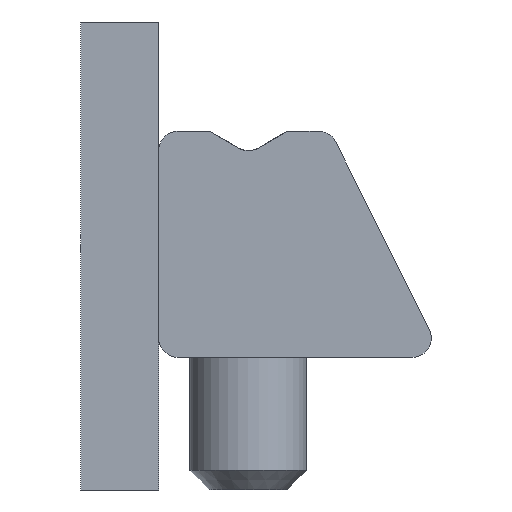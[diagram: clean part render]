
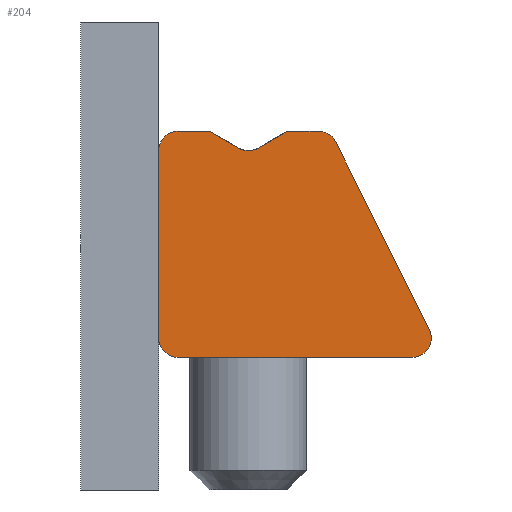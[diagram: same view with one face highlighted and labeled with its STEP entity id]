
A CAD part, left-side view. The second image highlights one B-rep face of the part: STEP entity #204.
In plain terms, the highlighted planar face has unit normal (-1, 0, 0) as drawn and (0, 0, -1) by its records, which use the part's own axes.
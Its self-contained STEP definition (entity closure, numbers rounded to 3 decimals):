
#204=ADVANCED_FACE('',(#368),#369,.T.);
#368=FACE_OUTER_BOUND('',#523,.T.);
#369=PLANE('',#524);
#523=EDGE_LOOP('',(#747,#748,#749,#750,#751,#752,#753,#754,#755,#756,#757,#758));
#524=AXIS2_PLACEMENT_3D('',#759,#760,#761);
#747=ORIENTED_EDGE('',*,*,#1032,.F.);
#748=ORIENTED_EDGE('',*,*,#1033,.F.);
#749=ORIENTED_EDGE('',*,*,#1034,.F.);
#750=ORIENTED_EDGE('',*,*,#1035,.F.);
#751=ORIENTED_EDGE('',*,*,#1036,.F.);
#752=ORIENTED_EDGE('',*,*,#1037,.F.);
#753=ORIENTED_EDGE('',*,*,#1002,.F.);
#754=ORIENTED_EDGE('',*,*,#1038,.F.);
#755=ORIENTED_EDGE('',*,*,#1039,.F.);
#756=ORIENTED_EDGE('',*,*,#1040,.F.);
#757=ORIENTED_EDGE('',*,*,#953,.F.);
#758=ORIENTED_EDGE('',*,*,#1041,.F.);
#759=CARTESIAN_POINT('',(6.491,0.5,0.));
#760=DIRECTION('',(0.0,0.0,-1.0));
#761=DIRECTION('',(1.0,0.0,0.0));
#953=EDGE_CURVE('',#1090,#1092,#1093,.T.);
#1002=EDGE_CURVE('',#1175,#1177,#1178,.T.);
#1032=EDGE_CURVE('',#1219,#1220,#1221,.T.);
#1033=EDGE_CURVE('',#1222,#1219,#1223,.T.);
#1034=EDGE_CURVE('',#1224,#1222,#1225,.T.);
#1035=EDGE_CURVE('',#1226,#1224,#1227,.T.);
#1036=EDGE_CURVE('',#1228,#1226,#1229,.T.);
#1037=EDGE_CURVE('',#1177,#1228,#1230,.T.);
#1038=EDGE_CURVE('',#1231,#1175,#1232,.T.);
#1039=EDGE_CURVE('',#1233,#1231,#1234,.T.);
#1040=EDGE_CURVE('',#1092,#1233,#1235,.T.);
#1041=EDGE_CURVE('',#1220,#1090,#1236,.T.);
#1090=VERTEX_POINT('',#1292);
#1092=VERTEX_POINT('',#1295);
#1093=CIRCLE('',#1296,0.5);
#1175=VERTEX_POINT('',#1409);
#1177=VERTEX_POINT('',#1412);
#1178=LINE('',#1413,#1414);
#1219=VERTEX_POINT('',#1477);
#1220=VERTEX_POINT('',#1478);
#1221=CIRCLE('',#1479,0.5);
#1222=VERTEX_POINT('',#1480);
#1223=LINE('',#1481,#1482);
#1224=VERTEX_POINT('',#1483);
#1225=CIRCLE('',#1484,0.5);
#1226=VERTEX_POINT('',#1485);
#1227=LINE('',#1486,#1487);
#1228=VERTEX_POINT('',#1488);
#1229=CIRCLE('',#1489,0.5);
#1230=LINE('',#1490,#1491);
#1231=VERTEX_POINT('',#1492);
#1232=CIRCLE('',#1493,0.5);
#1233=VERTEX_POINT('',#1494);
#1234=LINE('',#1495,#1496);
#1235=LINE('',#1497,#1498);
#1236=LINE('',#1499,#1500);
#1292=CARTESIAN_POINT('',(6.991,5.3,0.));
#1295=CARTESIAN_POINT('',(6.491,5.8,0.));
#1296=AXIS2_PLACEMENT_3D('',#1578,#1579,#1580);
#1409=CARTESIAN_POINT('',(4.441,5.367,0.));
#1412=CARTESIAN_POINT('',(3.691,5.8,0.));
#1413=CARTESIAN_POINT('',(4.441,5.367,0.));
#1414=VECTOR('',#1648,1.0);
#1477=CARTESIAN_POINT('',(6.491,0.0,0.));
#1478=CARTESIAN_POINT('',(6.991,0.5,0.));
#1479=AXIS2_PLACEMENT_3D('',#1672,#1673,#1674);
#1480=CARTESIAN_POINT('',(0.5,0.,0.));
#1481=CARTESIAN_POINT('',(0.5,0.,0.));
#1482=VECTOR('',#1675,1.0);
#1483=CARTESIAN_POINT('',(0.053,0.724,0.));
#1484=AXIS2_PLACEMENT_3D('',#1676,#1677,#1678);
#1485=CARTESIAN_POINT('',(2.453,5.524,0.));
#1486=CARTESIAN_POINT('',(2.453,5.524,0.));
#1487=VECTOR('',#1679,1.0);
#1488=CARTESIAN_POINT('',(2.9,5.8,0.));
#1489=AXIS2_PLACEMENT_3D('',#1680,#1681,#1682);
#1490=CARTESIAN_POINT('',(3.691,5.8,0.));
#1491=VECTOR('',#1683,1.0);
#1492=CARTESIAN_POINT('',(4.941,5.367,0.));
#1493=AXIS2_PLACEMENT_3D('',#1684,#1685,#1686);
#1494=CARTESIAN_POINT('',(5.691,5.8,0.));
#1495=CARTESIAN_POINT('',(5.691,5.8,0.));
#1496=VECTOR('',#1687,1.0);
#1497=CARTESIAN_POINT('',(6.491,5.8,0.));
#1498=VECTOR('',#1688,1.0);
#1499=CARTESIAN_POINT('',(6.991,0.5,0.));
#1500=VECTOR('',#1689,1.0);
#1578=CARTESIAN_POINT('',(6.491,5.3,0.));
#1579=DIRECTION('',(0.0,0.0,1.0));
#1580=DIRECTION('',(1.0,0.0,0.0));
#1648=DIRECTION('',(-0.866,0.5,0.0));
#1672=CARTESIAN_POINT('',(6.491,0.5,0.));
#1673=DIRECTION('',(0.0,0.0,1.0));
#1674=DIRECTION('',(1.0,0.0,0.0));
#1675=DIRECTION('',(1.,0.,0.0));
#1676=CARTESIAN_POINT('',(0.5,0.5,0.));
#1677=DIRECTION('',(0.0,0.0,1.0));
#1678=DIRECTION('',(1.0,0.0,0.0));
#1679=DIRECTION('',(-0.447,-0.894,0.0));
#1680=CARTESIAN_POINT('',(2.9,5.3,0.));
#1681=DIRECTION('',(0.0,0.0,1.0));
#1682=DIRECTION('',(1.0,0.0,0.0));
#1683=DIRECTION('',(-1.,0.,0.0));
#1684=CARTESIAN_POINT('',(4.691,5.8,0.));
#1685=DIRECTION('',(0.0,0.0,-1.0));
#1686=DIRECTION('',(-1.0,0.0,0.0));
#1687=DIRECTION('',(-0.866,-0.5,0.0));
#1688=DIRECTION('',(-1.,0.,0.0));
#1689=DIRECTION('',(0.0,1.0,0.0));
